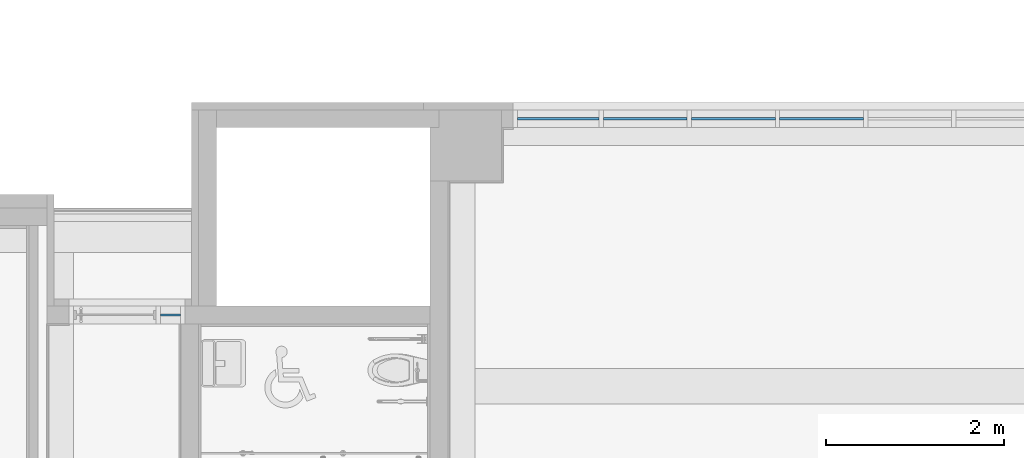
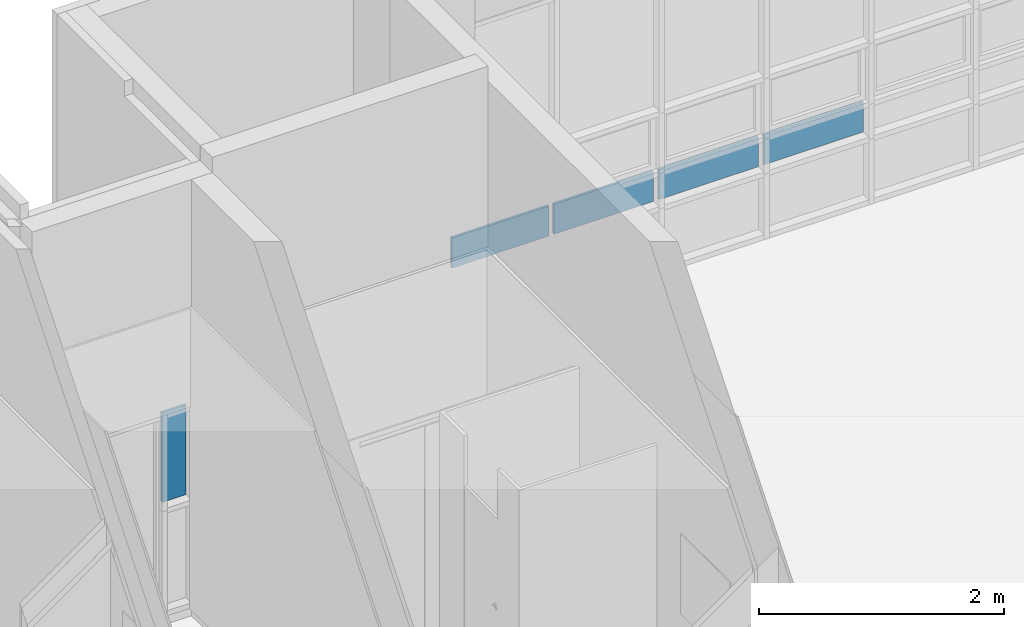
# One storey, part 42 of 74: 5 plates, 2 elements without a shape of their own.
"""IFC2X3 building model written with IfcOpenShell, lengths in millimetres."""

from ifc_helpers import new_model, entity, si_unit, converted_unit, derived_unit, direction, frame, origin, origin_2d_with_axis, place, context, subcontext, project, spatial, rectangle, extrude, source, transform, mapped, material, type_object, type_shapes, element, aggregate, save


model = new_model("IFC2X3")

# Units and contexts
model_context = context("Model", 3, precision=0.01, world=origin(), true_north=direction((6.123031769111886e-17, 1.0)))
body_context = subcontext(model_context, "Body", "Model", "MODEL_VIEW")
ifc_project = project(units=[si_unit("LENGTHUNIT", "METRE", prefix="MILLI"), si_unit("AREAUNIT", "SQUARE_METRE"), si_unit("VOLUMEUNIT", "CUBIC_METRE"), converted_unit("PLANEANGLEUNIT", "DEGREE", entity("IfcRatioMeasure", 0.017453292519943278), si_unit("PLANEANGLEUNIT", "RADIAN"), dimensions=[0, 0, 0, 0, 0, 0, 0]), si_unit("MASSUNIT", "GRAM", prefix="KILO"), derived_unit("MASSDENSITYUNIT", [(si_unit("MASSUNIT", "GRAM", prefix="KILO"), 1), (si_unit("LENGTHUNIT", "METRE"), -3)]), derived_unit("MOMENTOFINERTIAUNIT", [(si_unit("LENGTHUNIT", "METRE"), 4)]), si_unit("TIMEUNIT", "SECOND"), si_unit("FREQUENCYUNIT", "HERTZ"), si_unit("THERMODYNAMICTEMPERATUREUNIT", "DEGREE_CELSIUS"), derived_unit("THERMALTRANSMITTANCEUNIT", [(si_unit("MASSUNIT", "GRAM", prefix="KILO"), 1), (si_unit("THERMODYNAMICTEMPERATUREUNIT", "KELVIN"), -1), (si_unit("TIMEUNIT", "SECOND"), -3)]), derived_unit("VOLUMETRICFLOWRATEUNIT", [(si_unit("LENGTHUNIT", "METRE"), 3), (si_unit("TIMEUNIT", "SECOND"), -1)]), derived_unit("MASSFLOWRATEUNIT", [(si_unit("MASSUNIT", "GRAM", prefix="KILO"), 1), (si_unit("TIMEUNIT", "SECOND"), -1)]), derived_unit("ROTATIONALFREQUENCYUNIT", [(si_unit("TIMEUNIT", "SECOND"), -1)]), si_unit("ELECTRICCURRENTUNIT", "AMPERE"), si_unit("ELECTRICVOLTAGEUNIT", "VOLT"), si_unit("POWERUNIT", "WATT"), si_unit("FORCEUNIT", "NEWTON", prefix="KILO"), si_unit("ILLUMINANCEUNIT", "LUX"), si_unit("LUMINOUSFLUXUNIT", "LUMEN"), si_unit("LUMINOUSINTENSITYUNIT", "CANDELA"), derived_unit("USERDEFINED", [(si_unit("MASSUNIT", "GRAM", prefix="KILO"), -1), (si_unit("LENGTHUNIT", "METRE"), -2), (si_unit("TIMEUNIT", "SECOND"), 3), (si_unit("LUMINOUSFLUXUNIT", "LUMEN"), 1)]), derived_unit("SOUNDPOWERUNIT", [(si_unit("MASSUNIT", "GRAM", prefix="KILO"), 1), (si_unit("LENGTHUNIT", "METRE"), 2), (si_unit("TIMEUNIT", "SECOND"), -3)]), derived_unit("SOUNDPRESSUREUNIT", [(si_unit("MASSUNIT", "GRAM", prefix="KILO"), 1), (si_unit("LENGTHUNIT", "METRE"), -1), (si_unit("TIMEUNIT", "SECOND"), -2)]), derived_unit("LINEARVELOCITYUNIT", [(si_unit("LENGTHUNIT", "METRE"), 1), (si_unit("TIMEUNIT", "SECOND"), -1)]), si_unit("PRESSUREUNIT", "PASCAL"), derived_unit("USERDEFINED", [(si_unit("LENGTHUNIT", "METRE"), -2), (si_unit("MASSUNIT", "GRAM", prefix="KILO"), 1), (si_unit("TIMEUNIT", "SECOND"), -2)]), derived_unit("LINEARFORCEUNIT", [(si_unit("MASSUNIT", "GRAM", prefix="KILO"), 1), (si_unit("LENGTHUNIT", "METRE"), 1), (si_unit("TIMEUNIT", "SECOND"), -2), (si_unit("LENGTHUNIT", "METRE"), -1)]), derived_unit("PLANARFORCEUNIT", [(si_unit("MASSUNIT", "GRAM", prefix="KILO"), 1), (si_unit("LENGTHUNIT", "METRE"), 1), (si_unit("TIMEUNIT", "SECOND"), -2), (si_unit("LENGTHUNIT", "METRE"), -2)])], contexts=[model_context])

# Site, building, storey
site_placement = place(None, frame((-14167.972527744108, -657.2125860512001, 0.0)))
site = spatial("IfcSite", under=ifc_project, at=site_placement, Name="Default", CompositionType="ELEMENT")
building_placement = place(site_placement, origin())
building = spatial("IfcBuilding", under=site, at=building_placement, Name="Sample Building", CompositionType="ELEMENT")
storey_placement = place(building_placement, frame((0.0, 0.0, 4800.0)))
storey = spatial("IfcBuildingStorey", under=building, at=storey_placement, Name="지상 2층", CompositionType="ELEMENT", Elevation=4800.000000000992)

# Curtain wall, plates
curtain_wall_type = type_object("IfcCurtainWallType", Name="커튼월:CW112-스테인리스 스틸 커튼월", PredefinedType="NOTDEFINED")
curtain_wall_1_placement = place(storey_placement, frame((0.0, 0.0, -4800.0)))
curtain_wall_1 = element("IfcCurtainWall", 1, at=curtain_wall_1_placement, inside=storey, type_object=curtain_wall_type, Name="커튼월:CW112-스테인리스 스틸 커튼월", ObjectType="커튼월:CW112-스테인리스 스틸 커튼월")
ifc_material = material(Name="KBIMS-로이유리(코팅)")
plate_type_1 = type_object("IfcPlateType", Name="CW300-THK24.Low-e coating glass:CW300-THK24.Low-e coating glass", PredefinedType="CURTAIN_PANEL", material=ifc_material)
shared_shape_1 = source(origin(), body_context, "Body", "SweptSolid", [
    extrude(rectangle(XDim=938.8888888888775, YDim=24.000000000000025, at=origin_2d_with_axis()), frame((0.0, 0.0, 0.0), z_axis=(0.0, 0.0, 1.0), x_axis=(-1.0, 0.0, 0.0)), (0.0, 0.0, 1.0), 300.0),
])
type_shapes(plate_type_1, [shared_shape_1])
plate_1_placement = place(curtain_wall_1_placement, frame((45158.657769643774, 29157.212295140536, 5555.0), z_axis=(0.0, 0.0, 1.0), x_axis=(-1.0, 0.0, 0.0)))
plate_1 = element("IfcPlate", 2, at=plate_1_placement, type_object=plate_type_1, material=ifc_material, Name="CW300-THK24.Low-e coating glass:CW300-THK24.Low-e coating glass", ObjectType="CW300-THK24.Low-e coating glass:CW300-THK24.Low-e coating glass", context=body_context, shape_type="MappedRepresentation", body=[
    mapped(shared_shape_1, transform((0.0, 0.0, 0.0), scale=1.0)),
])
plate_2_placement = place(curtain_wall_1_placement, frame((44169.76888075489, 29157.212295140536, 5555.0), z_axis=(0.0, 0.0, 1.0), x_axis=(-1.0, 0.0, 0.0)))
plate_2 = element("IfcPlate", 3, at=plate_2_placement, type_object=plate_type_1, material=ifc_material, Name="CW300-THK24.Low-e coating glass:CW300-THK24.Low-e coating glass", ObjectType="CW300-THK24.Low-e coating glass:CW300-THK24.Low-e coating glass", context=body_context, shape_type="MappedRepresentation", body=[
    mapped(shared_shape_1, transform((0.0, 0.0, 0.0), scale=1.0)),
])
plate_3_placement = place(curtain_wall_1_placement, frame((43180.87999186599, 29157.21229514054, 5555.0), z_axis=(0.0, 0.0, 1.0), x_axis=(-1.0, 0.0, 0.0)))
plate_3 = element("IfcPlate", 4, at=plate_3_placement, type_object=plate_type_1, material=ifc_material, Name="CW300-THK24.Low-e coating glass:CW300-THK24.Low-e coating glass", ObjectType="CW300-THK24.Low-e coating glass:CW300-THK24.Low-e coating glass", context=body_context, shape_type="MappedRepresentation", body=[
    mapped(shared_shape_1, transform((0.0, 0.0, 0.0), scale=1.0)),
])
plate_type_2 = type_object("IfcPlateType", Name="CW300-THK24.Low-e coating glass:CW300-THK24.Low-e coating glass", PredefinedType="CURTAIN_PANEL", material=ifc_material)
shared_shape_2 = source(origin(), body_context, "Body", "SweptSolid", [
    extrude(rectangle(XDim=913.8888888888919, YDim=24.000000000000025, at=origin_2d_with_axis()), frame((0.0, 0.0, 0.0), z_axis=(0.0, 0.0, 1.0), x_axis=(-1.0, 0.0, 0.0)), (0.0, 0.0, 1.0), 300.0),
])
type_shapes(plate_type_2, [shared_shape_2])
plate_4_placement = place(curtain_wall_1_placement, frame((42204.4911029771, 29157.212295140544, 5555.0), z_axis=(0.0, 0.0, 1.0), x_axis=(-1.0, 0.0, 0.0)))
plate_4 = element("IfcPlate", 5, at=plate_4_placement, type_object=plate_type_2, material=ifc_material, Name="CW300-THK24.Low-e coating glass:CW300-THK24.Low-e coating glass", ObjectType="CW300-THK24.Low-e coating glass:CW300-THK24.Low-e coating glass", context=body_context, shape_type="MappedRepresentation", body=[
    mapped(shared_shape_2, transform((0.0, 0.0, 0.0), scale=1.0)),
])
aggregate(curtain_wall_1, [plate_1, plate_2, plate_3, plate_4])

# Curtain wall, plate
curtain_wall_2_placement = place(storey_placement, frame((0.0, 0.0, -4800.0)))
curtain_wall_2 = element("IfcCurtainWall", 6, at=curtain_wall_2_placement, inside=storey, type_object=curtain_wall_type, Name="커튼월:CW112-스테인리스 스틸 커튼월", ObjectType="커튼월:CW112-스테인리스 스틸 커튼월")
plate_type_3 = type_object("IfcPlateType", Name="CW300-THK24.Low-e coating glass:CW300-THK24.Low-e coating glass", PredefinedType="CURTAIN_PANEL", material=ifc_material)
shared_shape_3 = source(origin(), body_context, "Body", "SweptSolid", [
    extrude(rectangle(XDim=225.00869297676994, YDim=24.000000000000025, at=origin_2d_with_axis()), frame((0.0, 0.0, 0.0), z_axis=(0.0, 0.0, 1.0), x_axis=(-1.0, 0.0, 0.0)), (0.0, 0.0, 1.0), 895.0000000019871),
])
type_shapes(plate_type_3, [shared_shape_3])
plate_5_placement = place(curtain_wall_2_placement, frame((37855.4681446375, 26957.212295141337, 5955.0)))
plate_5 = element("IfcPlate", 7, at=plate_5_placement, type_object=plate_type_3, material=ifc_material, Name="CW300-THK24.Low-e coating glass:CW300-THK24.Low-e coating glass", ObjectType="CW300-THK24.Low-e coating glass:CW300-THK24.Low-e coating glass", context=body_context, shape_type="MappedRepresentation", body=[
    mapped(shared_shape_3, transform((0.0, 0.0, 0.0), scale=1.0)),
])
aggregate(curtain_wall_2, [plate_5])

save(model, "model.ifc")
